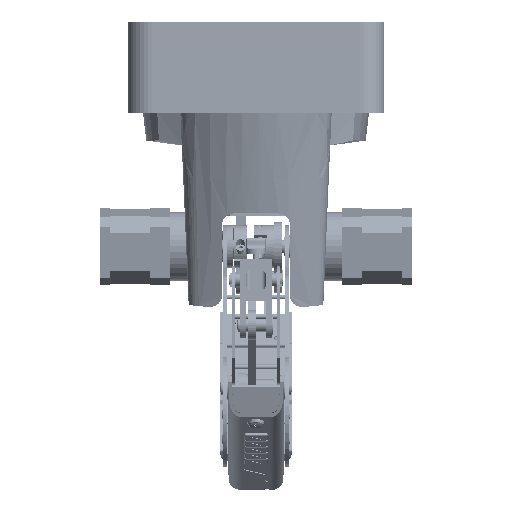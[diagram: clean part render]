
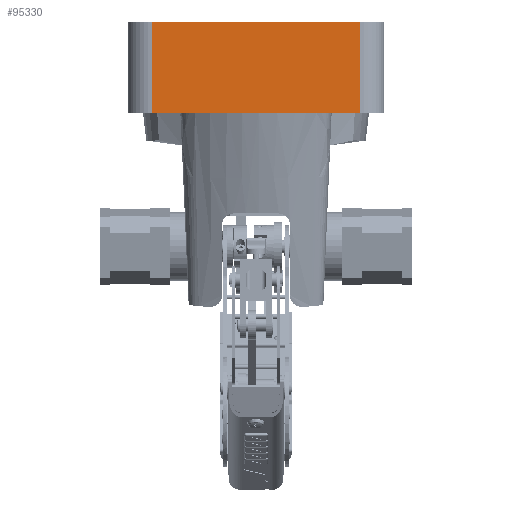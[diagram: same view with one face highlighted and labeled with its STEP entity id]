
A CAD part, front view. The second image highlights one B-rep face of the part: STEP entity #95330.
In plain terms, the highlighted planar face has unit normal (0, -1, 0) as drawn and (-1, 0, 0) by its records, which use the part's own axes.
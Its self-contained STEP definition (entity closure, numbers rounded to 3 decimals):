
#87481=DIRECTION('',(0.,-1.,0.));
#87482=VECTOR('',#87481,128.);
#87483=CARTESIAN_POINT('',(-79.,64.,56.));
#87484=LINE('',#87483,#87482);
#87548=DIRECTION('',(0.,0.,1.));
#87549=VECTOR('',#87548,56.);
#87550=CARTESIAN_POINT('',(-79.,64.,0.));
#87551=LINE('',#87550,#87549);
#87552=DIRECTION('',(0.,0.,-1.));
#87553=VECTOR('',#87552,56.);
#87554=CARTESIAN_POINT('',(-79.,-64.,56.));
#87555=LINE('',#87554,#87553);
#87635=DIRECTION('',(0.,1.,0.));
#87636=VECTOR('',#87635,128.);
#87637=CARTESIAN_POINT('',(-79.,-64.,0.));
#87638=LINE('',#87637,#87636);
#91484=CARTESIAN_POINT('',(-79.,-64.,0.));
#91485=CARTESIAN_POINT('',(-79.,64.,0.));
#91486=VERTEX_POINT('',#91484);
#91487=VERTEX_POINT('',#91485);
#91554=CARTESIAN_POINT('',(-79.,-64.,56.));
#91556=VERTEX_POINT('',#91554);
#91568=CARTESIAN_POINT('',(-79.,64.,56.));
#91569=VERTEX_POINT('',#91568);
#95317=CARTESIAN_POINT('',(-79.,-60.,50.));
#95318=DIRECTION('',(1.,0.,0.));
#95319=DIRECTION('',(0.,0.,-1.));
#95320=AXIS2_PLACEMENT_3D('',#95317,#95318,#95319);
#95321=PLANE('',#95320);
#95323=ORIENTED_EDGE('',*,*,#95322,.T.);
#95324=ORIENTED_EDGE('',*,*,#95268,.T.);
#95325=ORIENTED_EDGE('',*,*,#95307,.T.);
#95327=ORIENTED_EDGE('',*,*,#95326,.T.);
#95328=EDGE_LOOP('',(#95323,#95324,#95325,#95327));
#95329=FACE_OUTER_BOUND('',#95328,.F.);
#95330=ADVANCED_FACE('',(#95329),#95321,.F.);
#95268=EDGE_CURVE('',#91569,#91556,#87484,.T.);
#95307=EDGE_CURVE('',#91556,#91486,#87555,.T.);
#95322=EDGE_CURVE('',#91487,#91569,#87551,.T.);
#95326=EDGE_CURVE('',#91486,#91487,#87638,.T.);
